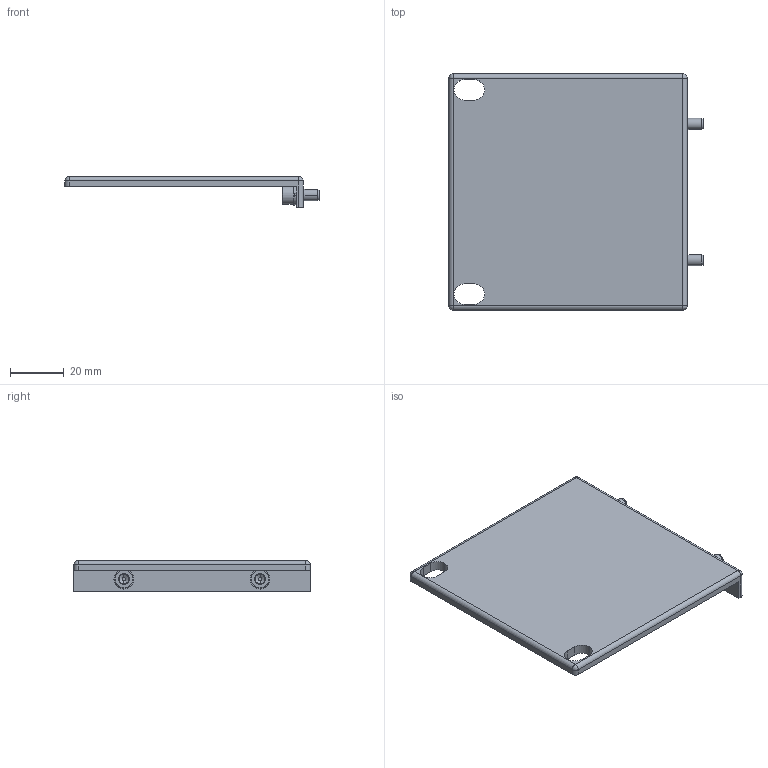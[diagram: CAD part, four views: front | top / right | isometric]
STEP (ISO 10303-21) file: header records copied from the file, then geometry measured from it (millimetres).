
FILE_DESCRIPTION (( 'STEP AP214' ), '1' );
FILE_NAME ('1403-RM.STEP', '2016-05-27T16:37:49', ( '' ), ( '' ), 'SwSTEP 2.0', 'SolidWorks 2015', '' );
FILE_SCHEMA (( 'AUTOMOTIVE_DESIGN' ));
Length unit declared in the file: inch
Products named in the file (1): 1403-RM
Bounding box: 94.87 x 88.14 x 11.43 mm (x, y, z)
Volume: 28864.3 mm3; surface area: 19390.3 mm2
Topology: 5 solids, 5 shells, 244 faces, 588 edges, 368 vertices
Faces by surface type: plane 129, bspline 43, cylinder 38, cone 26, sphere 4, torus 4
Entity records: 12542 total; most frequent: CARTESIAN_POINT 3838, ORIENTED_EDGE 1168, DIRECTION 1010, EDGE_CURVE 584, VERTEX_POINT 368, LINE 362, VECTOR 362, AXIS2_PLACEMENT_3D 324
